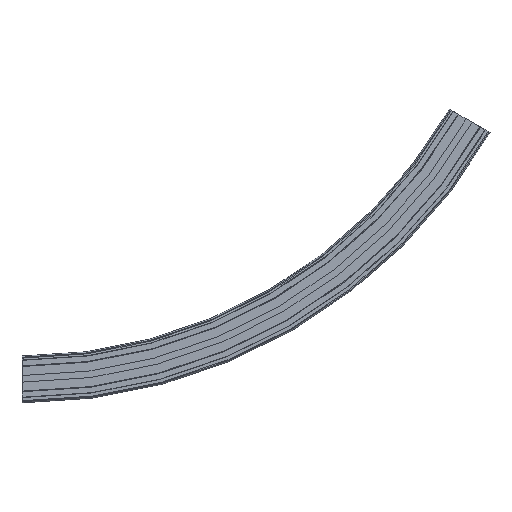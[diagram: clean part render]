
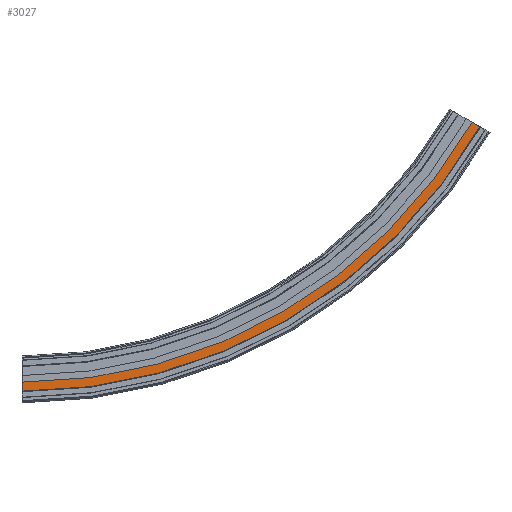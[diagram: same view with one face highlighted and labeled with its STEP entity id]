
A CAD part, front view. The second image highlights one B-rep face of the part: STEP entity #3027.
In plain terms, the highlighted planar face has unit normal (0, -1, 0).
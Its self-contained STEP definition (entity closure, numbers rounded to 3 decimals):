
#2969=CARTESIAN_POINT('',(762.535,-32.,381.75));
#2970=VERTEX_POINT('',#2969);
#2977=CARTESIAN_POINT('',(0.0,-32.,-58.5));
#2978=VERTEX_POINT('',#2977);
#2979=CARTESIAN_POINT('',(0.,-32.,822.0));
#2980=DIRECTION('',(0.0,-1.,0.0));
#2981=DIRECTION('',(-0.866,0.0,0.5));
#2982=AXIS2_PLACEMENT_3D('',#2979,#2980,#2981);
#2983=CIRCLE('',#2982,880.5);
#2984=EDGE_CURVE('',#2978,#2970,#2983,.T.);
#2996=CARTESIAN_POINT('',(0.0,-32.,-51.));
#2997=DIRECTION('',(0.0,-1.0,0.0));
#2998=DIRECTION('',(0.0,0.0,-1.0));
#2999=AXIS2_PLACEMENT_3D('',#2996,#2997,#2998);
#3000=PLANE('',#2999);
#3001=CARTESIAN_POINT('',(749.545,-32.,389.25));
#3002=VERTEX_POINT('',#3001);
#3003=CARTESIAN_POINT('',(762.535,-32.,381.75));
#3004=DIRECTION('',(-0.866,0.,0.5));
#3005=VECTOR('',#3004,15.);
#3006=LINE('',#3003,#3005);
#3007=EDGE_CURVE('',#2970,#3002,#3006,.T.);
#3008=ORIENTED_EDGE('',*,*,#3007,.T.);
#3009=CARTESIAN_POINT('',(0.0,-32.,-43.5));
#3010=VERTEX_POINT('',#3009);
#3011=CARTESIAN_POINT('',(0.,-32.,822.0));
#3012=DIRECTION('',(0.0,-1.0,0.0));
#3013=DIRECTION('',(-0.866,0.0,0.5));
#3014=AXIS2_PLACEMENT_3D('',#3011,#3012,#3013);
#3015=CIRCLE('',#3014,865.5);
#3016=EDGE_CURVE('',#3010,#3002,#3015,.T.);
#3017=ORIENTED_EDGE('',*,*,#3016,.F.);
#3018=CARTESIAN_POINT('',(0.0,-32.,-43.5));
#3019=DIRECTION('',(0.0,0.0,-1.0));
#3020=VECTOR('',#3019,15.);
#3021=LINE('',#3018,#3020);
#3022=EDGE_CURVE('',#3010,#2978,#3021,.T.);
#3023=ORIENTED_EDGE('',*,*,#3022,.T.);
#3024=ORIENTED_EDGE('',*,*,#2984,.T.);
#3025=EDGE_LOOP('',(#3008,#3017,#3023,#3024));
#3026=FACE_OUTER_BOUND('',#3025,.T.);
#3027=ADVANCED_FACE('',(#3026),#3000,.T.);
